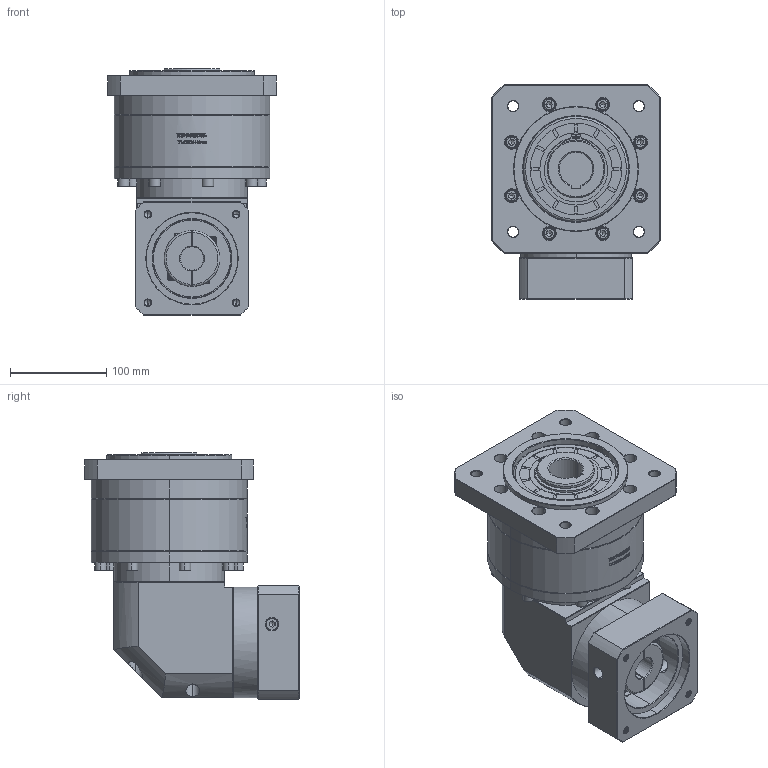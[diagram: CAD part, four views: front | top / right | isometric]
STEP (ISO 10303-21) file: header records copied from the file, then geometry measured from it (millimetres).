
FILE_DESCRIPTION (( 'STEP AP214' ), '1' );
FILE_NAME ('ZFR160A-K35-L2-24-95-130-M8.step', '2023-03-25T01:59:30', ( '' ), ( '' ), 'SwSTEP 2.0', 'SolidWorks 2016', '' );
FILE_SCHEMA (( 'AUTOMOTIVE_DESIGN' ));
Length unit declared in the file: millimetre
Products named in the file (1): ZFR160A-K35-L2-24-95-130-M8
Bounding box: 175 x 222.4 x 256.2 mm (x, y, z)
Volume: 4659966.1 mm3; surface area: 333283.9 mm2
Topology: 6 solids, 6 shells, 2724 faces, 7130 edges, 4578 vertices
Faces by surface type: plane 1366, bspline 490, cylinder 459, cone 365, torus 44
Entity records: 143734 total; most frequent: CARTESIAN_POINT 50845, ORIENTED_EDGE 14156, DIRECTION 11224, EDGE_CURVE 7078, VERTEX_POINT 4578, VECTOR 4444, LINE 4444, AXIS2_PLACEMENT_3D 3390
